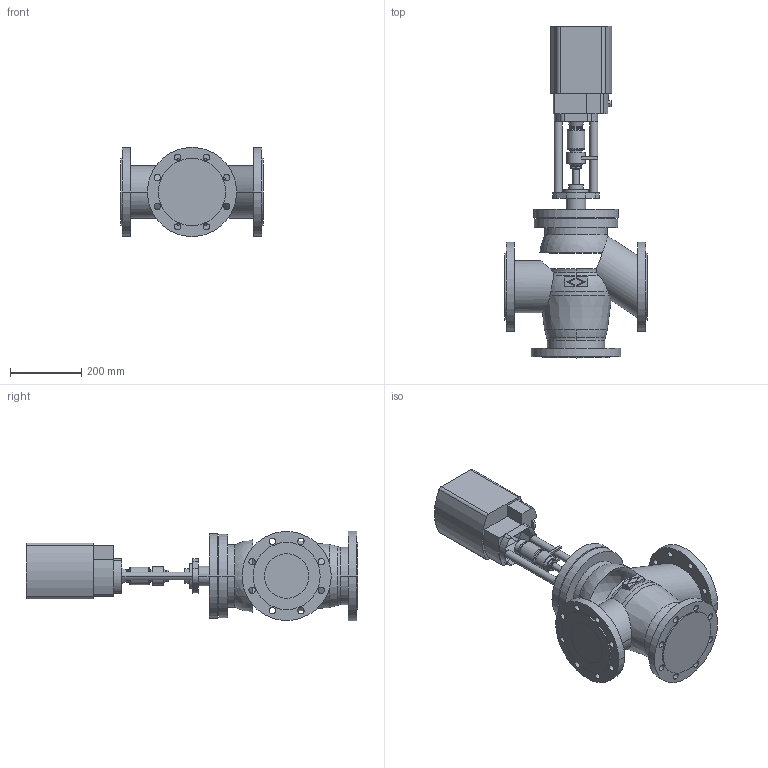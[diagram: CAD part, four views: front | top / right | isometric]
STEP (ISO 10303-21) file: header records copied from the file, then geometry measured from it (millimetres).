
FILE_DESCRIPTION( ( '' ), '1' );
FILE_NAME( 'F:/DE-SHS/TB/OR/04-Sonstiges/daten/files_3d/450-PREMIO-Plus-2G/c000006515.stp', '2017-02-22T12:49:17', ( '' ), ( '' ), ' ', ' ', ' ' );
FILE_SCHEMA( ( 'CONFIG_CONTROL_DESIGN' ) );
Length unit declared in the file: millimetre
Products named in the file (2): 1; 2
Bounding box: 400 x 931 x 250 mm (x, y, z)
Volume: 20347750.3 mm3; surface area: 1099460.8 mm2
Topology: 2 solids, 2 shells, 266 faces, 697 edges, 456 vertices
Faces by surface type: cylinder 134, plane 96, torus 20, cone 10, sphere 6
Entity records: 9306 total; most frequent: CARTESIAN_POINT 2293, DIRECTION 1562, ORIENTED_EDGE 1378, EDGE_CURVE 689, AXIS2_PLACEMENT_3D 633, VERTEX_POINT 456, CIRCLE 363, EDGE_LOOP 343
